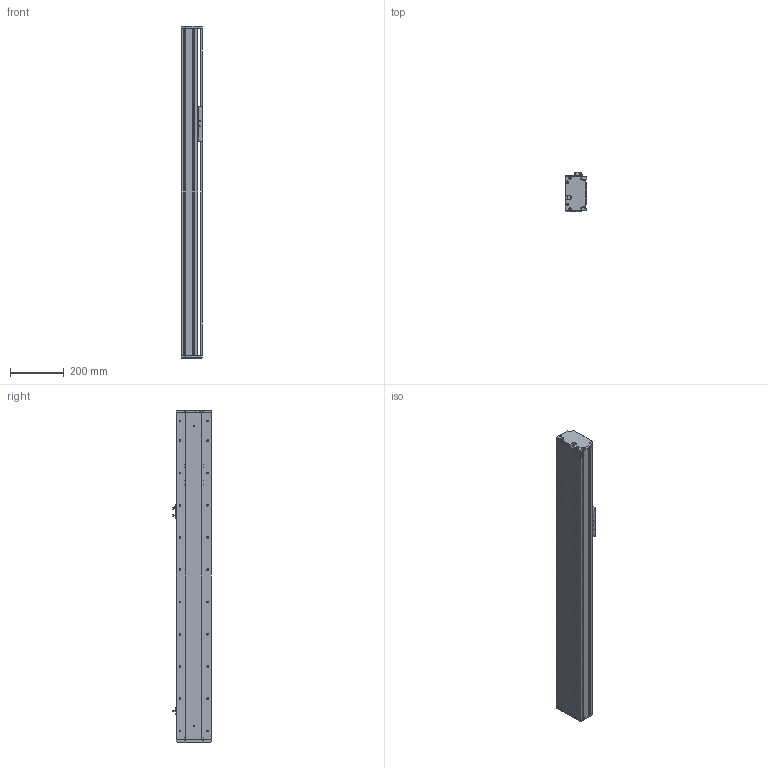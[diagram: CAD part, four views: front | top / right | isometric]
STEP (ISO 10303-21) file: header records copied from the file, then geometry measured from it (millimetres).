
FILE_DESCRIPTION (( 'STEP AP214' ), '1' );
FILE_NAME ('KSD130S-P2010-S750-M-CM.STEP', '2019-09-10T06:54:37', ( '微软用户' ), ( '微软中国' ), 'SwSTEP 2.0', 'SolidWorks 2014', '' );
FILE_SCHEMA (( 'AUTOMOTIVE_DESIGN' ));
Length unit declared in the file: millimetre
Products named in the file (8): 130宽马达安装板半封闭-内装; U倰嫖萇EEㄜSX672; 覜茼え100遵圉猾敕; 130宽盖板半封闭丝杠内装-750行程; 130宽滚珠丝杆安装板半封闭-内装-20丝杆; 130宽端盖半封闭-内装; 130宽底板半封闭丝杠内装-750行程; KSD130S-P2010-S750-M-CM
Assembly tree (9 placements, depth 2):
  KSD130S-P2010-S750-M-CM
    130宽底板半封闭丝杠内装-750行程
    130宽端盖半封闭-内装
    130宽滚珠丝杆安装板半封闭-内装-20丝杆
    130宽盖板半封闭丝杠内装-750行程
    覜茼え100遵圉猾敕
    U倰嫖萇EEㄜSX672  x3
    130宽马达安装板半封闭-内装
Bounding box: 80 x 143.7 x 1235 mm (x, y, z)
Volume: 3701752 mm3; surface area: 1134214.4 mm2
Topology: 9 solids, 9 shells, 1127 faces, 3304 edges, 2098 vertices
Faces by surface type: cylinder 514, plane 455, cone 158
Entity records: 37066 total; most frequent: CARTESIAN_POINT 7291, DIRECTION 5366, ORIENTED_EDGE 5288, EDGE_CURVE 2644, AXIS2_PLACEMENT_3D 1957, VERTEX_POINT 1722, VECTOR 1452, LINE 1452
